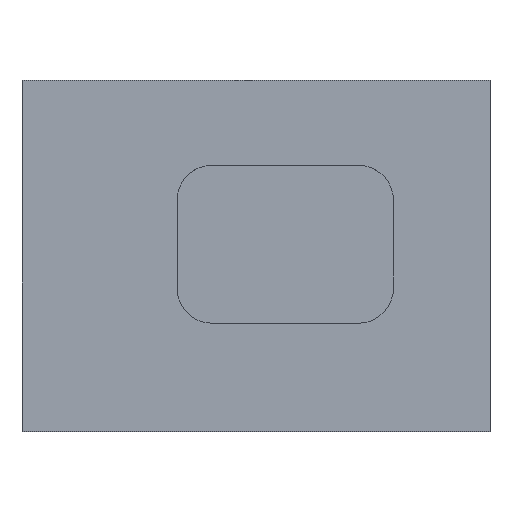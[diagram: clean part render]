
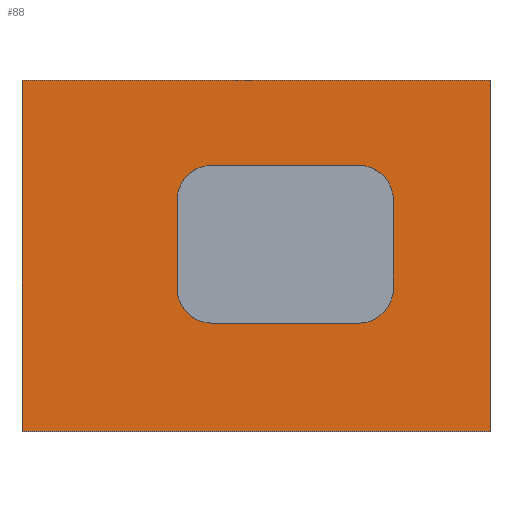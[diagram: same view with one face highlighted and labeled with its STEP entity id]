
A CAD part, top view. The second image highlights one B-rep face of the part: STEP entity #88.
In plain terms, the highlighted planar face has unit normal (0, 0, 1).
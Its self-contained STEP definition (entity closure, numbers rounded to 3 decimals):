
#24 = VERTEX_POINT('',#25);
#25 = CARTESIAN_POINT('',(0.,0.,0.));
#40 = VERTEX_POINT('',#41);
#41 = CARTESIAN_POINT('',(0.,6.,0.));
#47 = EDGE_CURVE('',#24,#40,#48,.T.);
#48 = LINE('',#49,#50);
#49 = CARTESIAN_POINT('',(0.,0.,0.));
#50 = VECTOR('',#51,1.);
#51 = DIRECTION('',(-0.,1.,0.));
#70 = EDGE_CURVE('',#24,#71,#73,.T.);
#71 = VERTEX_POINT('',#72);
#72 = CARTESIAN_POINT('',(8.,0.,0.));
#73 = LINE('',#74,#75);
#74 = CARTESIAN_POINT('',(0.,0.,0.));
#75 = VECTOR('',#76,1.);
#76 = DIRECTION('',(1.,0.,-0.));
#88 = ADVANCED_FACE('',(#89,#107),#177,.T.);
#89 = FACE_BOUND('',#90,.T.);
#90 = EDGE_LOOP('',(#91,#92,#93,#101));
#91 = ORIENTED_EDGE('',*,*,#47,.F.);
#92 = ORIENTED_EDGE('',*,*,#70,.T.);
#93 = ORIENTED_EDGE('',*,*,#94,.T.);
#94 = EDGE_CURVE('',#71,#95,#97,.T.);
#95 = VERTEX_POINT('',#96);
#96 = CARTESIAN_POINT('',(8.,6.,0.));
#97 = LINE('',#98,#99);
#98 = CARTESIAN_POINT('',(8.,0.,0.));
#99 = VECTOR('',#100,1.);
#100 = DIRECTION('',(-0.,1.,0.));
#101 = ORIENTED_EDGE('',*,*,#102,.F.);
#102 = EDGE_CURVE('',#40,#95,#103,.T.);
#103 = LINE('',#104,#105);
#104 = CARTESIAN_POINT('',(0.,6.,0.));
#105 = VECTOR('',#106,1.);
#106 = DIRECTION('',(1.,0.,-0.));
#107 = FACE_BOUND('',#108,.T.);
#108 = EDGE_LOOP('',(#109,#120,#128,#137,#145,#154,#162,#171));
#109 = ORIENTED_EDGE('',*,*,#110,.F.);
#110 = EDGE_CURVE('',#111,#113,#115,.T.);
#111 = VERTEX_POINT('',#112);
#112 = CARTESIAN_POINT('',(2.65,2.45,0.));
#113 = VERTEX_POINT('',#114);
#114 = CARTESIAN_POINT('',(3.25,1.85,0.));
#115 = CIRCLE('',#116,0.6);
#116 = AXIS2_PLACEMENT_3D('',#117,#118,#119);
#117 = CARTESIAN_POINT('',(3.25,2.45,0.));
#118 = DIRECTION('',(0.,0.,1.));
#119 = DIRECTION('',(0.,-1.,0.));
#120 = ORIENTED_EDGE('',*,*,#121,.T.);
#121 = EDGE_CURVE('',#111,#122,#124,.T.);
#122 = VERTEX_POINT('',#123);
#123 = CARTESIAN_POINT('',(2.65,3.95,0.));
#124 = LINE('',#125,#126);
#125 = CARTESIAN_POINT('',(2.65,1.85,0.));
#126 = VECTOR('',#127,1.);
#127 = DIRECTION('',(-0.,1.,0.));
#128 = ORIENTED_EDGE('',*,*,#129,.T.);
#129 = EDGE_CURVE('',#122,#130,#132,.T.);
#130 = VERTEX_POINT('',#131);
#131 = CARTESIAN_POINT('',(3.25,4.55,0.));
#132 = CIRCLE('',#133,0.6);
#133 = AXIS2_PLACEMENT_3D('',#134,#135,#136);
#134 = CARTESIAN_POINT('',(3.25,3.95,0.));
#135 = DIRECTION('',(-0.,-0.,-1.));
#136 = DIRECTION('',(0.,-1.,0.));
#137 = ORIENTED_EDGE('',*,*,#138,.T.);
#138 = EDGE_CURVE('',#130,#139,#141,.T.);
#139 = VERTEX_POINT('',#140);
#140 = CARTESIAN_POINT('',(5.75,4.55,0.));
#141 = LINE('',#142,#143);
#142 = CARTESIAN_POINT('',(2.65,4.55,0.));
#143 = VECTOR('',#144,1.);
#144 = DIRECTION('',(1.,0.,-0.));
#145 = ORIENTED_EDGE('',*,*,#146,.F.);
#146 = EDGE_CURVE('',#147,#139,#149,.T.);
#147 = VERTEX_POINT('',#148);
#148 = CARTESIAN_POINT('',(6.35,3.95,0.));
#149 = CIRCLE('',#150,0.6);
#150 = AXIS2_PLACEMENT_3D('',#151,#152,#153);
#151 = CARTESIAN_POINT('',(5.75,3.95,0.));
#152 = DIRECTION('',(0.,0.,1.));
#153 = DIRECTION('',(0.,-1.,0.));
#154 = ORIENTED_EDGE('',*,*,#155,.F.);
#155 = EDGE_CURVE('',#156,#147,#158,.T.);
#156 = VERTEX_POINT('',#157);
#157 = CARTESIAN_POINT('',(6.35,2.45,0.));
#158 = LINE('',#159,#160);
#159 = CARTESIAN_POINT('',(6.35,1.85,0.));
#160 = VECTOR('',#161,1.);
#161 = DIRECTION('',(-0.,1.,0.));
#162 = ORIENTED_EDGE('',*,*,#163,.T.);
#163 = EDGE_CURVE('',#156,#164,#166,.T.);
#164 = VERTEX_POINT('',#165);
#165 = CARTESIAN_POINT('',(5.75,1.85,0.));
#166 = CIRCLE('',#167,0.6);
#167 = AXIS2_PLACEMENT_3D('',#168,#169,#170);
#168 = CARTESIAN_POINT('',(5.75,2.45,0.));
#169 = DIRECTION('',(-0.,-0.,-1.));
#170 = DIRECTION('',(0.,-1.,0.));
#171 = ORIENTED_EDGE('',*,*,#172,.F.);
#172 = EDGE_CURVE('',#113,#164,#173,.T.);
#173 = LINE('',#174,#175);
#174 = CARTESIAN_POINT('',(2.65,1.85,0.));
#175 = VECTOR('',#176,1.);
#176 = DIRECTION('',(1.,0.,-0.));
#177 = PLANE('',#178);
#178 = AXIS2_PLACEMENT_3D('',#179,#180,#181);
#179 = CARTESIAN_POINT('',(0.,0.,0.));
#180 = DIRECTION('',(0.,0.,1.));
#181 = DIRECTION('',(1.,0.,-0.));
